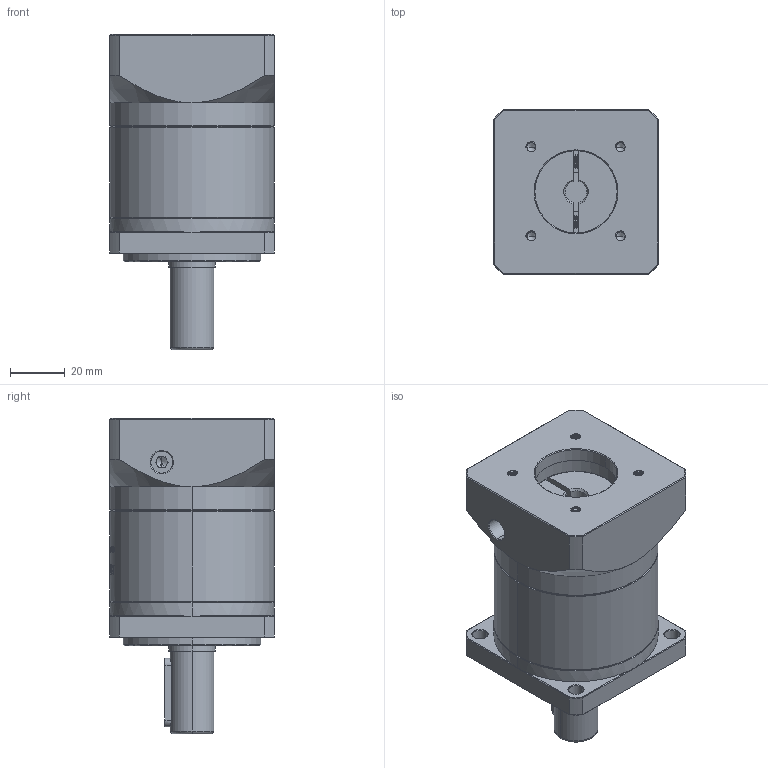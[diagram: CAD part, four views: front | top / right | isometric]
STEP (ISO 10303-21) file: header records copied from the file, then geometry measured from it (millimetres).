
FILE_DESCRIPTION (( 'STEP AP214' ), '1' );
FILE_NAME ('ZF060-D16-L1-P2-8-30-46-M4.step', '2023-08-16T04:26:33', ( '' ), ( '' ), 'SwSTEP 2.0', 'SolidWorks 2016', '' );
FILE_SCHEMA (( 'AUTOMOTIVE_DESIGN' ));
Length unit declared in the file: millimetre
Products named in the file (1): ZF060-D16-L1-P2-8-30-46-M4
Bounding box: 60 x 60 x 115 mm (x, y, z)
Volume: 229921.9 mm3; surface area: 44669.2 mm2
Topology: 6 solids, 6 shells, 1727 faces, 4678 edges, 3034 vertices
Faces by surface type: plane 794, bspline 354, cylinder 332, cone 229, torus 18
Entity records: 95971 total; most frequent: CARTESIAN_POINT 37662, ORIENTED_EDGE 9328, DIRECTION 6671, EDGE_CURVE 4664, VERTEX_POINT 3034, VECTOR 2367, LINE 2367, AXIS2_PLACEMENT_3D 2152
